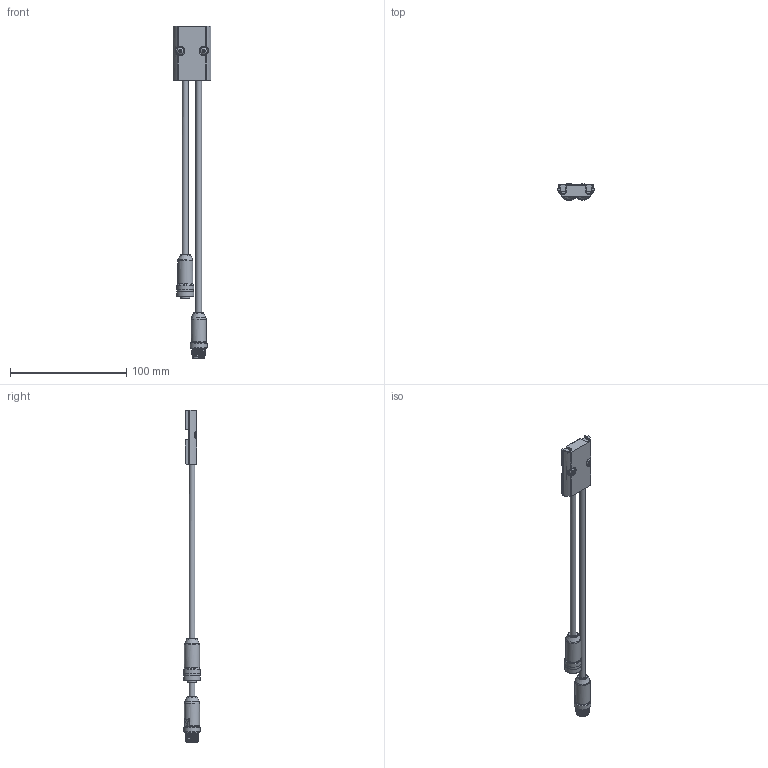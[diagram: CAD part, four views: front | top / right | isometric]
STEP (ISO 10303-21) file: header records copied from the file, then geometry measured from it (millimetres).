
FILE_DESCRIPTION(/* description */ (''),/* implementation_level */ '2;1');
FILE_NAME(/* name */ '8+5.stp',/* time_stamp */ '2022-12-01T16:53:32+01:00',/* author */ (''),/* organization */ (''),/* preprocessor_version */ 'ST-DEVELOPER v16.701',/* originating_system */ 'SIEMENS PLM Software NX 1946',/* authorisation */ '');
FILE_SCHEMA (('AP203_CONFIGURATION_CONTROLLED_3D_DESIGN_OF_MECHANICAL_PARTS_AND_ASSEMBLIES_MIM_LF { 1 0 10303 403 2 1 2}'));
Length unit declared in the file: millimetre
Products named in the file (1): MRos3D04D64D7eln
Bounding box: 32 x 14.5 x 285.2 mm (x, y, z)
Volume: 17754.3 mm3; surface area: 22613.9 mm2
Topology: 1 solids, 8 shells, 598 faces, 1608 edges, 1054 vertices
Faces by surface type: plane 278, cylinder 141, cone 92, bspline 50, torus 23, sphere 14
Full cylindrical faces by diameter (mm): 1.1 x5, 1.3 x5, 1.6 x5, 2.8 x2, 3.5 x1, 5 x4, 5.5 x2, 6 x1, 8.25 x1, 9.5 x1, 9.7 x1, 9.9 x1, 10 x1, 10.35 x1, 10.6 x3, 10.8 x1, 11 x1, 12.2 x1, 13 x2, 14 x1, 14.5 x3
Entity records: 23869 total; most frequent: CARTESIAN_POINT 9561, ORIENTED_EDGE 2960, DIRECTION 2857, EDGE_CURVE 1480, AXIS2_PLACEMENT_3D 1087, VERTEX_POINT 1022, EDGE_LOOP 716, LINE 683
